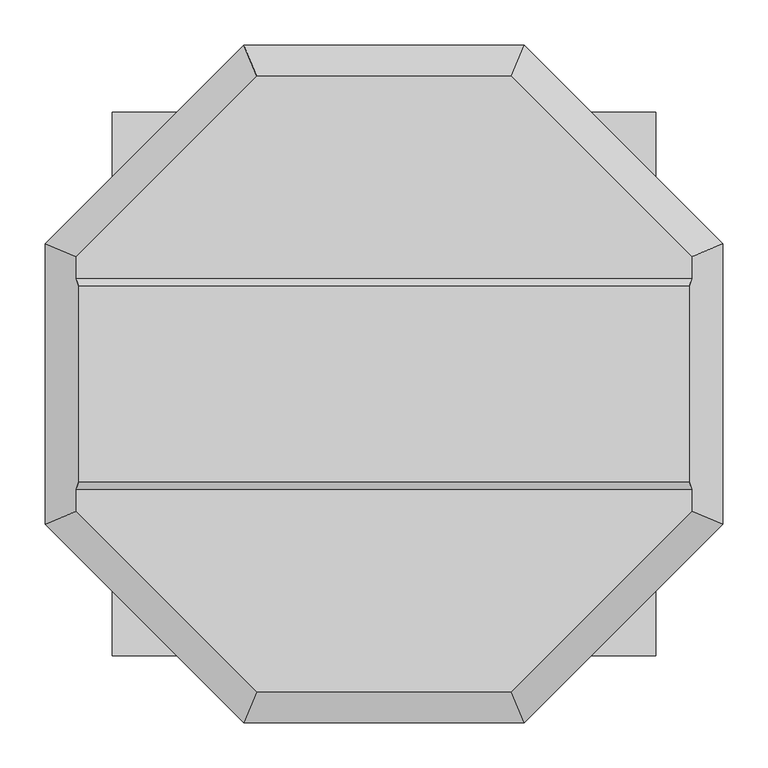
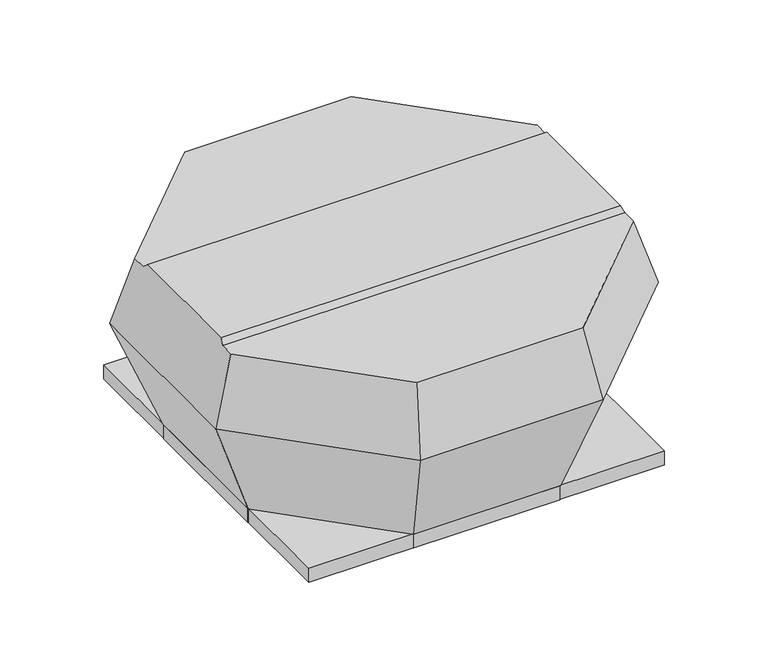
"""IFC4 building model written with IfcOpenShell, lengths in millimetres: unitary equipment geometry, VE-Wentylator-ParaForma-Harmann-VIVER-Wywiewny : 4-315/1600S."""

import ifcopenshell
import ifcopenshell.guid

model = None  # the IFC model being written
_history = None  # IfcOwnerHistory: only IFC2X3 demands one
_inside = {}  # id of a spatial element -> (the spatial element, [elements in it])
_under = {}  # id of a project, library or spatial element -> (it, [spatial elements below it])
_declared = {}  # id of a project -> (the project, [libraries it declares])
_typed = {}  # id of a type object -> (the type object, [elements of that type])
_made_of = {}  # id of a material, layer set ... -> (it, [elements and type objects made of it])


def new_model(schema):
    """Start an empty IFC model of exactly this schema.

    Asked for "IFC4X3", IfcOpenShell would pick the latest addendum, in which some entities
    have other attributes; the version numbers below select the first issue.
    IFC2X3 requires an IfcOwnerHistory on every rooted entity: one is made here for all.
    """
    global model, _history
    if schema == "IFC4X3":
        model = ifcopenshell.file(schema_version=(4, 3, 0, 0))
    else:
        model = ifcopenshell.file(schema=schema)
    _inside.clear()
    _under.clear()
    _declared.clear()
    _typed.clear()
    _made_of.clear()
    _history = None
    if model.schema == "IFC2X3":
        org = make("IfcOrganization", Name="unknown")
        user = make(
            "IfcPersonAndOrganization",
            ThePerson=make("IfcPerson", FamilyName="unknown"),
            TheOrganization=org,
        )
        app = make(
            "IfcApplication",
            ApplicationDeveloper=org,
            Version="unknown",
            ApplicationFullName="unknown",
            ApplicationIdentifier="unknown",
        )
        _history = make(
            "IfcOwnerHistory",
            OwningUser=user,
            OwningApplication=app,
            ChangeAction="ADDED",
            CreationDate=0,
        )
    return model


def make(cls, **values):
    """One entity of the class cls with the attributes given. An attribute that is None is left unset."""
    return model.create_entity(
        cls, **{name: value for name, value in values.items() if value is not None}
    )


def rooted(cls, **values):
    """An entity with a GlobalId (a new one), such as an element, a storey or a relation."""
    return make(cls, GlobalId=ifcopenshell.guid.new(), OwnerHistory=_history, **values)


def si_unit(unit_type, name, prefix=None):
    """IfcSIUnit, for example si_unit("LENGTHUNIT", "METRE", prefix="MILLI")."""
    return make("IfcSIUnit", UnitType=unit_type, Prefix=prefix, Name=name)


def assignment(units):
    """IfcUnitAssignment: the units of a project."""
    return None if units is None else make("IfcUnitAssignment", Units=units)


def point(xyz):
    """IfcCartesianPoint."""
    return None if xyz is None else make("IfcCartesianPoint", Coordinates=xyz)


def direction(xyz):
    """IfcDirection."""
    return None if xyz is None else make("IfcDirection", DirectionRatios=xyz)


def frame(location, z_axis=None, x_axis=None):
    """IfcAxis2Placement3D, a coordinate frame: its origin and axes. An axis left out is left unset."""
    return make(
        "IfcAxis2Placement3D",
        Location=point(location),
        Axis=direction(z_axis),
        RefDirection=direction(x_axis),
    )


def origin():
    """The frame at (0, 0, 0) with its axes left unset."""
    return frame((0.0, 0.0, 0.0))


def place(relative_to, where):
    """IfcLocalPlacement: puts the frame where relative to a parent placement (None: the world)."""
    return make(
        "IfcLocalPlacement", PlacementRelTo=relative_to, RelativePlacement=where
    )


def context(
    kind, dimensions, precision=None, world=None, true_north=None, identifier=None
):
    """IfcGeometricRepresentationContext, for example the 3D "Model" context."""
    return make(
        "IfcGeometricRepresentationContext",
        ContextIdentifier=identifier,
        ContextType=kind,
        CoordinateSpaceDimension=dimensions,
        Precision=precision,
        WorldCoordinateSystem=world,
        TrueNorth=true_north,
    )


def project(units=None, contexts=None):
    """IfcProject with its units and contexts."""
    return rooted(
        "IfcProject",
        Name="project",
        RepresentationContexts=contexts,
        UnitsInContext=assignment(units),
    )


def spatial(cls, under=None, at=None, **own):
    """A site, building, storey or space (cls), placed at a placement, below another one or the project."""
    s = rooted(cls, ObjectPlacement=at, **own)
    if under is not None:
        _under.setdefault(under.id(), (under, []))[1].append(s)
    return s


def faces_of(points, faces, orient=None, outer=None):
    """IfcFace entities. A face is a list of loops; a loop is a list of indices into points, from 0.

    orient and outer hold one flag for each loop. By default every Orientation is true, the
    first loop of a face is its IfcFaceOuterBound and the others are IfcFaceBound.
    """
    made = []
    for i, loops in enumerate(faces):
        bounds = []
        for j, loop in enumerate(loops):
            is_outer = j == 0 if outer is None else outer[i][j]
            bounds.append(
                make(
                    "IfcFaceOuterBound" if is_outer else "IfcFaceBound",
                    Bound=make("IfcPolyLoop", Polygon=[points[k] for k in loop]),
                    Orientation=True if orient is None else orient[i][j],
                )
            )
        made.append(make("IfcFace", Bounds=bounds))
    return made


def faceted_brep(points, faces, orient=None, outer=None, voids=None):
    """IfcFacetedBrep: a solid bounded by flat faces; with voids (closed shells), ...WithVoids."""
    shared = [point(p) for p in points]
    hull = make("IfcClosedShell", CfsFaces=faces_of(shared, faces, orient, outer))
    if voids is None:
        return make("IfcFacetedBrep", Outer=hull)
    return make(
        "IfcFacetedBrepWithVoids",
        Outer=hull,
        Voids=[
            make(cls, CfsFaces=faces_of(shared, fs, o, b)) for cls, fs, o, b in voids
        ],
    )


def shape(context_of_items, identifier, shape_type, items):
    """IfcShapeRepresentation: the items that make up one representation, for example the "Body"."""
    return make(
        "IfcShapeRepresentation",
        ContextOfItems=context_of_items,
        RepresentationIdentifier=identifier,
        RepresentationType=shape_type,
        Items=items,
    )


def source(mapping_origin, context_of_items, identifier, shape_type, items):
    """IfcRepresentationMap: a shape defined once, which mapped items show again and again."""
    return make(
        "IfcRepresentationMap",
        MappingOrigin=mapping_origin,
        MappedRepresentation=shape(context_of_items, identifier, shape_type, items),
    )


def transform(
    local_origin,
    x_axis=None,
    y_axis=None,
    z_axis=None,
    scale=None,
    scale2=None,
    scale3=None,
    uniform=True,
):
    """IfcCartesianTransformationOperator3D, or its non-uniform kind. x_axis, y_axis, z_axis: its Axis1, 2, 3."""
    if uniform:
        return make(
            "IfcCartesianTransformationOperator3D",
            Axis1=direction(x_axis),
            Axis2=direction(y_axis),
            LocalOrigin=point(local_origin),
            Scale=scale,
            Axis3=direction(z_axis),
        )
    return make(
        "IfcCartesianTransformationOperator3DnonUniform",
        Axis1=direction(x_axis),
        Axis2=direction(y_axis),
        LocalOrigin=point(local_origin),
        Scale=scale,
        Axis3=direction(z_axis),
        Scale2=scale2,
        Scale3=scale3,
    )


def mapped(mapping_source, mapping_target):
    """IfcMappedItem: shows the shape of a source again, moved by a transform."""
    return make(
        "IfcMappedItem", MappingSource=mapping_source, MappingTarget=mapping_target
    )


def made_of(thing, what):
    """Note that an element or type object is made of a material, layer set ...; save() writes the relation."""
    if what is not None:
        _made_of.setdefault(what.id(), (what, []))[1].append(thing)
    return thing


def element(
    cls,
    number,
    at=None,
    inside=None,
    cuts=None,
    type_object=None,
    material=None,
    context=None,
    identifier="Body",
    shape_type=None,
    held_by="IfcProductDefinitionShape",
    body=None,
    shapes=None,
    **own,
):
    """One element of the class cls, such as IfcWall. Its Tag is "e" and its number.

    at: its placement. inside: the storey or other place that contains it. cuts: it is an
    opening in that element (IfcRelVoidsElement). A single representation is given by context,
    identifier, shape_type and body (its items); several are given by shapes. held_by: the class
    of the entity that holds the representations. save() writes the other relations.
    """
    e = rooted(cls, Tag="e%d" % number, ObjectPlacement=at, **own)
    if body is not None:
        shapes = [shape(context, identifier, shape_type, body)]
    if shapes is not None:
        e.Representation = make(held_by, Representations=shapes)
    if inside is not None:
        _inside.setdefault(inside.id(), (inside, []))[1].append(e)
    if cuts is not None:
        rooted(
            "IfcRelVoidsElement", RelatingBuildingElement=cuts, RelatedOpeningElement=e
        )
    if type_object is not None:
        _typed.setdefault(type_object.id(), (type_object, []))[1].append(e)
    return made_of(e, material)


def aggregate(whole, parts):
    """IfcRelAggregates: a whole, such as a stair, and the parts it consists of."""
    return rooted("IfcRelAggregates", RelatingObject=whole, RelatedObjects=parts)


def save(model, path):
    """Write the relations noted so far, then the file.

    IfcRelAggregates (storeys below a building ...), IfcRelContainedInSpatialStructure (elements
    in a storey), IfcRelDefinesByType, IfcRelAssociatesMaterial and IfcRelDeclares: one each for
    every whole, place, type object, material and project.
    """
    for whole, parts in _under.values():
        aggregate(whole, parts)
    for where, things in _inside.values():
        rooted(
            "IfcRelContainedInSpatialStructure",
            RelatedElements=things,
            RelatingStructure=where,
        )
    for kind, things in _typed.values():
        rooted("IfcRelDefinesByType", RelatedObjects=things, RelatingType=kind)
    for what, things in _made_of.values():
        rooted("IfcRelAssociatesMaterial", RelatedObjects=things, RelatingMaterial=what)
    for by, libraries in _declared.values():
        rooted("IfcRelDeclares", RelatingContext=by, RelatedDefinitions=libraries)
    model.write(path)


def unitary_equipment_63716bbd(model_context):
    return source(origin(), model_context, "Body", "Brep", [
        faceted_brep([(336.1792386, -107.5, 309.5), (336.1792386, 107.5, 309.5), (-336.1792386, 107.5, 309.5), (-336.1792386, -107.5, 309.5), (338.7141628, 115.95, 301.1), (-338.7141628, 115.95, 301.1), (338.7141628, -115.95, 301.1), (-338.7141628, -115.95, 301.1), (140.3, -338.7141628, 301.1), (338.7141628, -140.3, 301.1), (-338.7141628, -140.3, 301.1), (-140.3, -338.7141628, 301.1), (338.7141628, 140.3, 301.1), (140.3, 338.7141628, 301.1), (-140.3, 338.7141628, 301.1), (-338.7141628, 140.3, 301.1), (154.4, -372.754574, 188.3), (372.754574, -154.4, 188.3), (372.754574, 154.4, 188.3), (154.4, 372.754574, 188.3), (-154.4, 372.754574, 188.3), (-372.754574, 154.4, 188.3), (-372.754574, -154.4, 188.3), (-154.4, -372.754574, 188.3), (124.25, -299.9660351, 1.5), (-124.25, -299.9660351, 1.5), (-299.9660351, -124.25, 1.5), (-299.9660351, 124.25, 1.5), (-124.25, 299.9660351, 1.5), (124.25, 299.9660351, 1.5), (299.9660351, 124.25, 1.5), (299.9660351, -124.25, 1.5)], [[[0, 1, 2, 3]], [[1, 4, 5, 2]], [[6, 0, 3, 7]], [[8, 9, 6, 7, 10, 11]], [[12, 13, 14, 15, 5, 4]], [[9, 8, 16, 17]], [[9, 17, 18, 12, 4, 1, 0, 6]], [[13, 12, 18, 19]], [[14, 13, 19, 20]], [[15, 14, 20, 21]], [[15, 21, 22, 10, 7, 3, 2, 5]], [[11, 10, 22, 23]], [[8, 11, 23, 16]], [[24, 25, 26, 27, 28, 29, 30, 31]], [[24, 31, 17, 16]], [[31, 30, 18, 17]], [[30, 29, 19, 18]], [[29, 28, 20, 19]], [[28, 27, 21, 20]], [[27, 26, 22, 21]], [[26, 25, 23, 22]], [[25, 24, 16, 23]]]),
        faceted_brep([(297.5, 297.5, -23.5), (297.5, 297.5, 0.0), (-297.5, 297.5, 0.0), (-297.5, 297.5, -23.5), (299.0, 299.0, 1.5), (299.0, 299.0, -23.5), (-299.0, 299.0, -23.5), (-299.0, 299.0, 1.5), (-297.5, -297.5, 0.0), (-297.5, -297.5, -23.5), (-299.0, -299.0, -23.5), (-299.0, -299.0, 1.5), (297.5, -297.5, 0.0), (297.5, -297.5, -23.5), (299.0, -299.0, -23.5), (299.0, -299.0, 1.5)], [[[0, 1, 2, 3]], [[4, 5, 6, 7]], [[3, 2, 8, 9]], [[7, 6, 10, 11]], [[9, 8, 12, 13]], [[11, 10, 14, 15]], [[13, 12, 1, 0]], [[5, 14, 10, 6], [3, 9, 13, 0]], [[15, 14, 5, 4]], [[7, 11, 15, 4]], [[1, 12, 8, 2]]]),
        faceted_brep([(-299.0, -122.7, -23.5), (-300.0, -122.7, -23.5), (-300.0, 122.7, -23.5), (-299.0, 122.7, -23.5), (-299.0, -122.7, 1.5), (-299.0, 122.7, 1.5), (-300.0, 122.7, 1.5), (-300.0, -122.7, 1.5)], [[[0, 1, 2, 3]], [[4, 5, 6, 7]], [[1, 0, 4, 7]], [[2, 1, 7, 6]], [[3, 2, 6, 5]], [[0, 3, 5, 4]]]),
        faceted_brep([(300.0, -122.7, -23.5), (299.0, -122.7, -23.5), (299.0, 122.7, -23.5), (300.0, 122.7, -23.5), (300.0, 122.7, 1.5), (299.0, 122.7, 1.5), (299.0, 5.0, 1.5), (299.0, -5.0, 1.5), (299.0, -122.7, 1.5), (300.0, -122.7, 1.5), (300.0, -5.0, 1.5), (300.0, 5.0, 1.5)], [[[0, 1, 2, 3]], [[4, 5, 6, 7, 8, 9, 10, 11]], [[1, 0, 9, 8]], [[2, 1, 8, 7, 6, 5]], [[3, 2, 5, 4]], [[0, 3, 4, 11, 10, 9]]]),
        faceted_brep([(122.7, 299.0, -23.5), (-122.7, 299.0, -23.5), (-122.7, 300.0, -23.5), (122.7, 300.0, -23.5), (122.7, 299.0, 1.5), (122.7, 300.0, 1.5), (-122.7, 300.0, 1.5), (-122.7, 299.0, 1.5)], [[[0, 1, 2, 3]], [[4, 5, 6, 7]], [[1, 0, 4, 7]], [[2, 1, 7, 6]], [[3, 2, 6, 5]], [[0, 3, 5, 4]]]),
        faceted_brep([(122.7, -300.0, -23.5), (-122.7, -300.0, -23.5), (-122.7, -299.0, -23.5), (122.7, -299.0, -23.5), (122.7, -300.0, 1.5), (122.7, -299.0, 1.5), (-122.7, -299.0, 1.5), (-122.7, -300.0, 1.5)], [[[0, 1, 2, 3]], [[4, 5, 6, 7]], [[1, 0, 4, 7]], [[2, 1, 7, 6]], [[3, 2, 6, 5]], [[0, 3, 5, 4]]]),
    ])


if __name__ == "__main__":
    model = new_model("IFC4")
    model_context = context("Model", 3, world=origin())
    ifc_project = project(units=[si_unit("LENGTHUNIT", "METRE", prefix="MILLI")], contexts=[model_context])
    site = spatial("IfcSite", under=ifc_project)
    building = spatial("IfcBuilding", under=site)
    placement = place(None, origin())
    unitary_equipment_shape = unitary_equipment_63716bbd(model_context)
    element("IfcUnitaryEquipment", 1, ObjectType="VE-Wentylator-ParaForma-Harmann-VIVER-Wywiewny : 4-315/1600S", at=placement, inside=building, context=model_context, shape_type="MappedRepresentation", body=[
        mapped(unitary_equipment_shape, transform((0.0, 0.0, 0.0), x_axis=(1.0, 0.0, 0.0), y_axis=(0.0, 1.0, 0.0), z_axis=(0.0, 0.0, 1.0))),
    ])
    save(model, "model.ifc")
